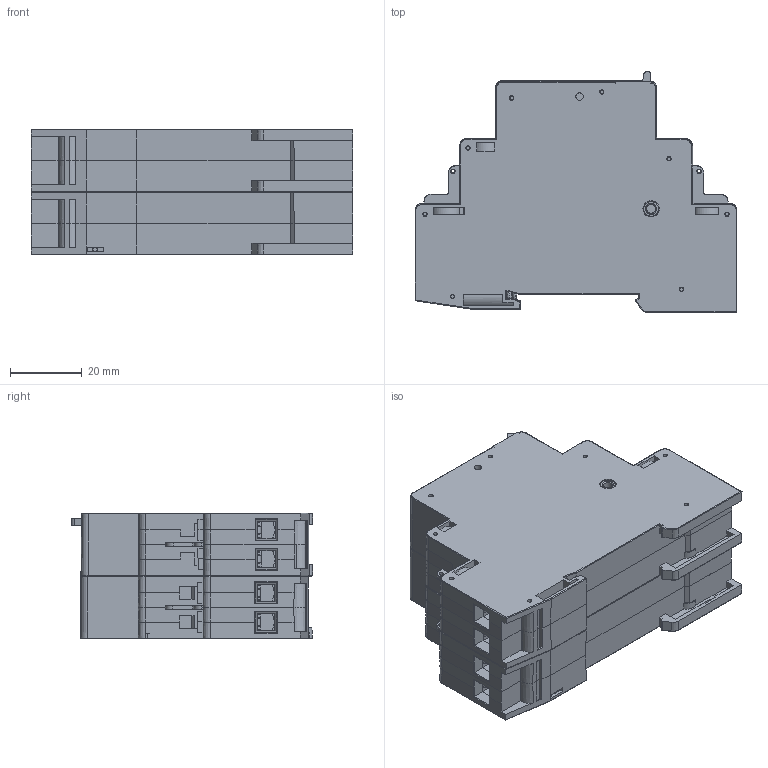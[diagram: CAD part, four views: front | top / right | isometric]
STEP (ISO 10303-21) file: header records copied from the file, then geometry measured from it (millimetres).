
FILE_DESCRIPTION (( 'STEP AP214' ), '1' );
FILE_NAME ('MIG-32-31_40__upr2.step', '2014-08-29T09:46:14', ( '' ), ( '' ), 'SwSTEP 2.0', 'SolidWorks 2011', '' );
FILE_SCHEMA (( 'AUTOMOTIVE_DESIGN' ));
Length unit declared in the file: millimetre
Products named in the file (1): MIG-32-31_40__upr2
Bounding box: 90 x 67.45 x 35.2 mm (x, y, z)
Volume: 146990.5 mm3; surface area: 26655.5 mm2
Topology: 1 solids, 1 shells, 2497 faces, 6908 edges, 4449 vertices
Faces by surface type: plane 1273, cylinder 527, bspline 300, cone 214, torus 180, sphere 3
Entity records: 149671 total; most frequent: CARTESIAN_POINT 64425, ORIENTED_EDGE 13770, DIRECTION 9289, EDGE_CURVE 6885, VERTEX_POINT 4449, LINE 3771, VECTOR 3771, AXIS2_PLACEMENT_3D 2759
